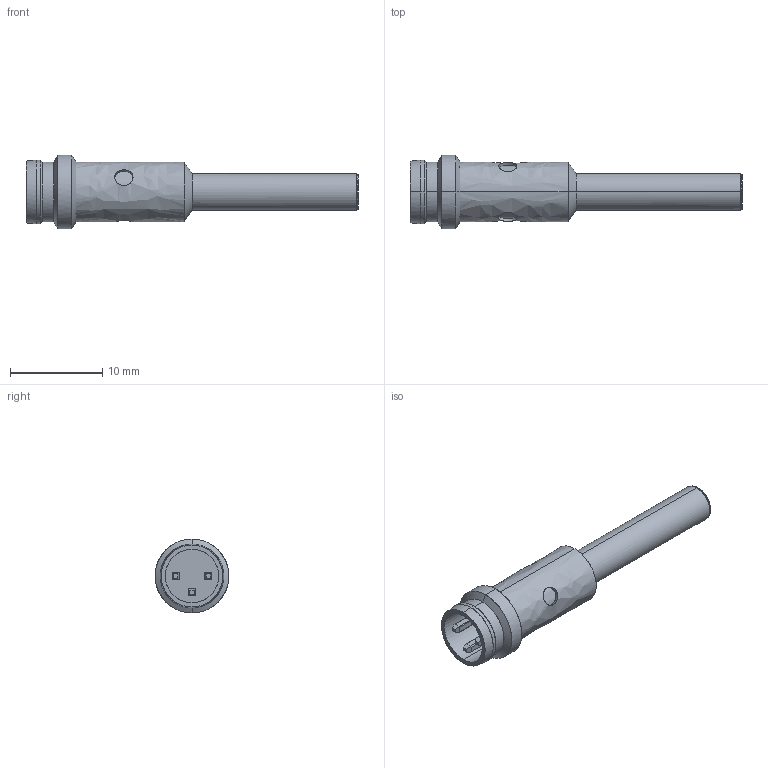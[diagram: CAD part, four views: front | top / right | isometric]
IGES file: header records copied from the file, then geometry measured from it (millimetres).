
Start section: Comment
Global section: file name: IFRM 04xxxA3_S35L.igs; native system:  By Spatial Corp.; preprocessor: XPlus GENERIC/IGES 3.0; author: Author; organization: Title; date: 20040805.075214; units: inch
Bounding box: 35.98 x 7.99 x 8 mm (x, y, z)
Surface area: 818.8 mm2 (no closed solid volume)
Topology: 0 solids, 0 shells, 78 faces, 370 edges, 370 vertices
Faces by surface type: bspline 78
